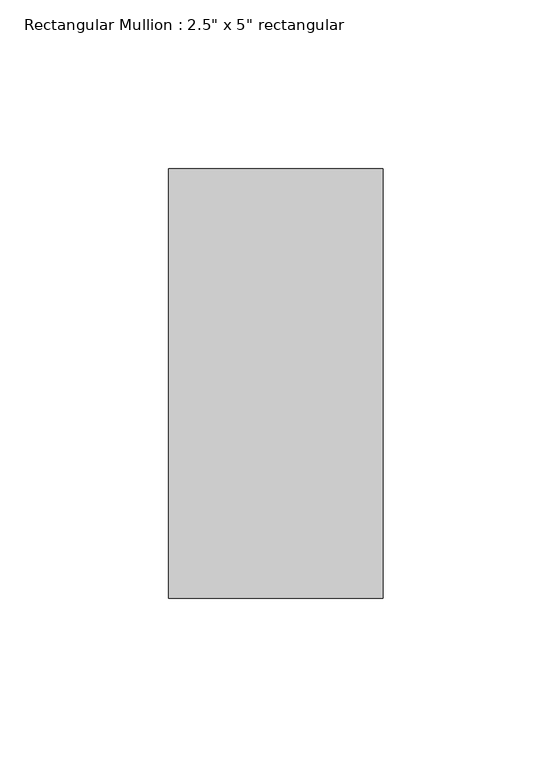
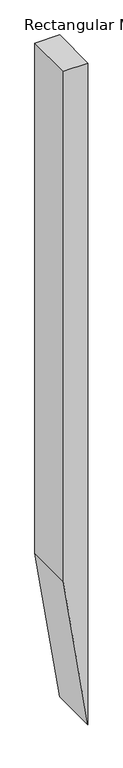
"""IFC4 building model written with IfcOpenShell, lengths in millimetres: member geometry."""

from ifc_helpers import new_model, si_unit, frame, origin, place, context, project, spatial, polyline, outline, extrude, source, transform, mapped, element, save


def member_66afc3ec(model_context):
    return source(origin(), model_context, "Body", "SweptSolid", [
        extrude(outline(polyline([(0.0, 31.75), (0.0, -31.75), (-1391.1391348, -31.75), (-1804.054937, 31.75), (0.0, 31.75)])), frame((0.0, -63.5, 0.0), z_axis=(0.0, 1.0, 0.0), x_axis=(0.0, 0.0, 1.0)), (0.0, 0.0, 1.0), 127.0),
    ])


if __name__ == "__main__":
    model = new_model("IFC4")
    model_context = context("Model", 3, world=origin())
    ifc_project = project(units=[si_unit("LENGTHUNIT", "METRE", prefix="MILLI")], contexts=[model_context])
    site = spatial("IfcSite", under=ifc_project)
    building = spatial("IfcBuilding", under=site)
    placement = place(None, origin())
    member_shape = member_66afc3ec(model_context)
    element("IfcMember", 1, ObjectType="Rectangular Mullion : 2.5\" x 5\" rectangular", at=placement, inside=building, context=model_context, shape_type="MappedRepresentation", body=[
        mapped(member_shape, transform((0.0, 0.0, 0.0), x_axis=(1.0, 0.0, 0.0), y_axis=(0.0, 1.0, 0.0), z_axis=(0.0, 0.0, 1.0))),
    ])
    save(model, "model.ifc")
